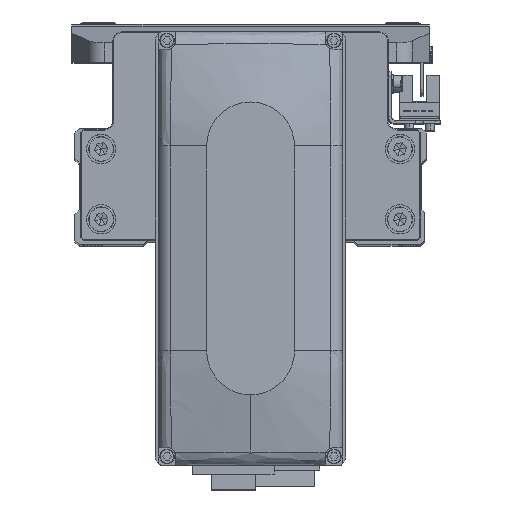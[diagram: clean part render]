
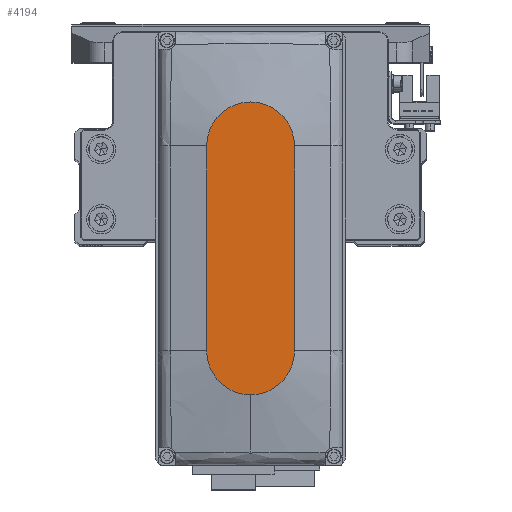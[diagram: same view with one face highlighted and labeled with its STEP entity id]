
A CAD part, top view. The second image highlights one B-rep face of the part: STEP entity #4194.
In plain terms, the highlighted planar face has unit normal (0, 0, 1).
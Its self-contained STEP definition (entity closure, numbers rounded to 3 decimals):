
#1262 = CARTESIAN_POINT ( 'NONE',  ( 35., 0., 35. ) ) ;
#1654 = CARTESIAN_POINT ( 'NONE',  ( -35., 15., 35. ) ) ;
#1932 = LINE ( 'NONE', #15218, #24330 ) ;
#2193 = CARTESIAN_POINT ( 'NONE',  ( -35., -15., 35. ) ) ;
#2743 = ORIENTED_EDGE ( 'NONE', *, *, #40747, .T. ) ;
#3841 = CIRCLE ( 'NONE', #33718, 15. ) ;
#3892 = DIRECTION ( 'NONE',  ( -1., 0., 0. ) ) ;
#4027 = CARTESIAN_POINT ( 'NONE',  ( 35., -15., 35. ) ) ;
#4143 = DIRECTION ( 'NONE',  ( 1., 0., 0. ) ) ;
#4194 = ADVANCED_FACE ( 'NONE', ( #37231 ), #7415, .T. ) ;
#4525 = ORIENTED_EDGE ( 'NONE', *, *, #13308, .T. ) ;
#5846 = CARTESIAN_POINT ( 'NONE',  ( 35., 15., 35. ) ) ;
#7019 = CARTESIAN_POINT ( 'NONE',  ( -35., 0., 35. ) ) ;
#7415 = PLANE ( 'NONE',  #14127 ) ;
#8160 = VERTEX_POINT ( 'NONE', #4027 ) ;
#10588 = CIRCLE ( 'NONE', #34905, 15. ) ;
#11492 = DIRECTION ( 'NONE',  ( 1., 0., 0. ) ) ;
#11820 = CIRCLE ( 'NONE', #36141, 15. ) ;
#12139 = ORIENTED_EDGE ( 'NONE', *, *, #36603, .T. ) ;
#13308 = EDGE_CURVE ( 'NONE', #37385, #32266, #20400, .T. ) ;
#14127 = AXIS2_PLACEMENT_3D ( 'NONE', #20659, #33955, #4143 ) ;
#14554 = DIRECTION ( 'NONE',  ( 0., 0., 1. ) ) ;
#15218 = CARTESIAN_POINT ( 'NONE',  ( -35., -15., 35. ) ) ;
#17617 = ORIENTED_EDGE ( 'NONE', *, *, #21965, .T. ) ;
#18872 = CARTESIAN_POINT ( 'NONE',  ( 50., 0., 35. ) ) ;
#20269 = DIRECTION ( 'NONE',  ( 0., 0., 1. ) ) ;
#20400 = LINE ( 'NONE', #33705, #41973 ) ;
#20659 = CARTESIAN_POINT ( 'NONE',  ( 0., 0., 35. ) ) ;
#21965 = EDGE_CURVE ( 'NONE', #8160, #27563, #3841, .T. ) ;
#24078 = ORIENTED_EDGE ( 'NONE', *, *, #42588, .T. ) ;
#24330 = VECTOR ( 'NONE', #28459, 1000. ) ;
#27563 = VERTEX_POINT ( 'NONE', #18872 ) ;
#27795 = DIRECTION ( 'NONE',  ( 1., 0., 0. ) ) ;
#27990 = CARTESIAN_POINT ( 'NONE',  ( 35., 0., 35. ) ) ;
#28459 = DIRECTION ( 'NONE',  ( 1., 0., 0. ) ) ;
#30926 = EDGE_LOOP ( 'NONE', ( #4525, #12139, #24078, #17617, #2743 ) ) ;
#32266 = VERTEX_POINT ( 'NONE', #1654 ) ;
#33567 = DIRECTION ( 'NONE',  ( 1., 0., 0. ) ) ;
#33705 = CARTESIAN_POINT ( 'NONE',  ( -35., 15., 35. ) ) ;
#33718 = AXIS2_PLACEMENT_3D ( 'NONE', #1262, #14554, #27795 ) ;
#33955 = DIRECTION ( 'NONE',  ( 0., 0., 1. ) ) ;
#34905 = AXIS2_PLACEMENT_3D ( 'NONE', #7019, #20269, #33567 ) ;
#35656 = VERTEX_POINT ( 'NONE', #2193 ) ;
#36141 = AXIS2_PLACEMENT_3D ( 'NONE', #27990, #41309, #11492 ) ;
#36603 = EDGE_CURVE ( 'NONE', #32266, #35656, #10588, .T. ) ;
#37231 = FACE_OUTER_BOUND ( 'NONE', #30926, .T. ) ;
#37385 = VERTEX_POINT ( 'NONE', #5846 ) ;
#40747 = EDGE_CURVE ( 'NONE', #27563, #37385, #11820, .T. ) ;
#41309 = DIRECTION ( 'NONE',  ( 0., 0., 1. ) ) ;
#41973 = VECTOR ( 'NONE', #3892, 1000. ) ;
#42588 = EDGE_CURVE ( 'NONE', #35656, #8160, #1932, .T. ) ;
